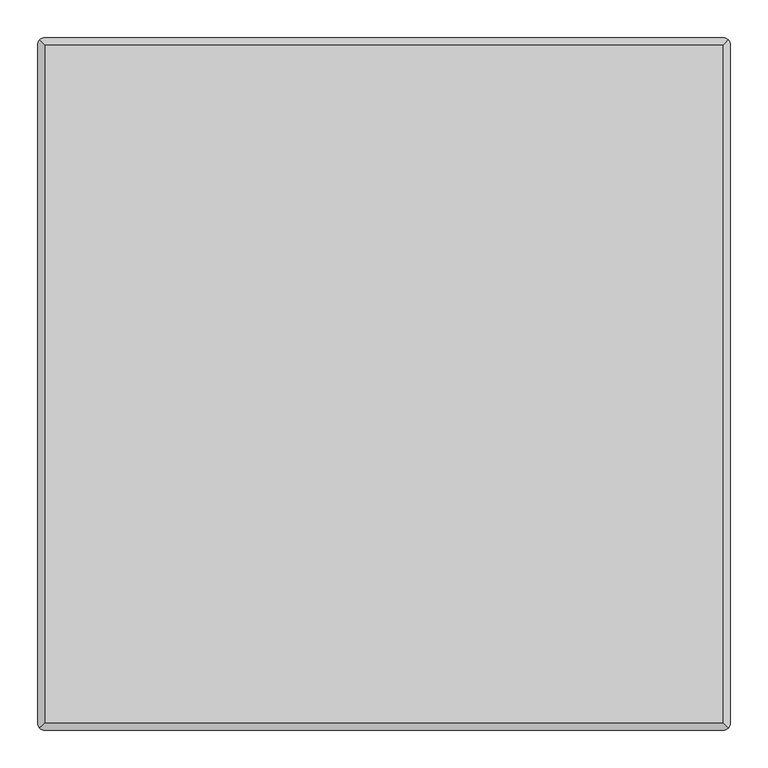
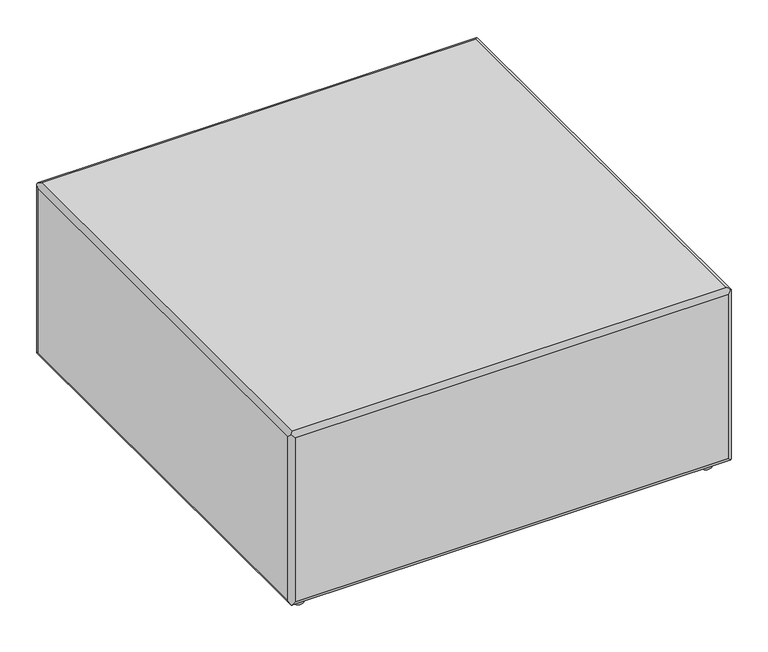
"""IFC4 building model written with IfcOpenShell, lengths in millimetres: furniture geometry, Puff - COLAB - 04 SP : Puff - COLAB - 04 SP."""

from ifc_helpers import new_model, si_unit, point, frame, frame_2d, origin, origin_with_axes, place, context, project, spatial, circle_curve, ellipse_curve, trimmed, segment, composite_curve, outline, extrude, source, transform, mapped, element, save
from ifc_brep_helpers import plane_surface, cylinder_surface, advanced_brep


def furniture_c106df04(model_context):
    return source(origin(), model_context, "Body", "SolidModel", [
        extrude(outline(composite_curve([segment(trimmed(circle_curve(frame_2d((36.0013585, 36.0000851)), 2.5), [point((33.5013585, 36.0000851))], [point((38.5013585, 36.0000851))], False, "CARTESIAN"), True, "CONTINUOUS"), segment(trimmed(circle_curve(frame_2d((36.0013585, 36.0000851)), 2.5), [point((38.5013585, 36.0000851))], [point((33.5013585, 36.0000851))], False, "CARTESIAN"), True, "CONTINUOUS")], self_intersect=False)), frame((0.0, 0.0, 5.0000003), z_axis=(0.0, 0.0, 1.0), x_axis=(1.0, 0.0, 0.0)), (0.0, 0.0, 1.0), 15.0000011),
        extrude(outline(composite_curve([segment(trimmed(circle_curve(frame_2d((883.9986415, 36.0000851)), 2.5), [point((886.4986415, 36.0000851))], [point((881.4986415, 36.0000851))], False, "CARTESIAN"), True, "CONTINUOUS"), segment(trimmed(circle_curve(frame_2d((883.9986415, 36.0000851)), 2.5), [point((881.4986415, 36.0000851))], [point((886.4986415, 36.0000851))], False, "CARTESIAN"), True, "CONTINUOUS")], self_intersect=False)), frame((0.0, 0.0, 5.0000003), z_axis=(0.0, 0.0, 1.0), x_axis=(1.0, 0.0, 0.0)), (0.0, 0.0, 1.0), 15.0000011),
        extrude(outline(composite_curve([segment(trimmed(circle_curve(frame_2d((36.0013585, 883.9999149)), 2.5), [point((33.5013585, 883.9999149))], [point((38.5013585, 883.9999149))], False, "CARTESIAN"), True, "CONTINUOUS"), segment(trimmed(circle_curve(frame_2d((36.0013585, 883.9999149)), 2.5), [point((38.5013585, 883.9999149))], [point((33.5013585, 883.9999149))], False, "CARTESIAN"), True, "CONTINUOUS")], self_intersect=False)), frame((0.0, 0.0, 5.0000003), z_axis=(0.0, 0.0, 1.0), x_axis=(1.0, 0.0, 0.0)), (0.0, 0.0, 1.0), 15.0000011),
        extrude(outline(composite_curve([segment(trimmed(circle_curve(frame_2d((883.9986415, 883.9999149)), 2.5), [point((886.4986415, 883.9999149))], [point((881.4986415, 883.9999149))], False, "CARTESIAN"), True, "CONTINUOUS"), segment(trimmed(circle_curve(frame_2d((883.9986415, 883.9999149)), 2.5), [point((881.4986415, 883.9999149))], [point((886.4986415, 883.9999149))], False, "CARTESIAN"), True, "CONTINUOUS")], self_intersect=False)), frame((0.0, 0.0, 5.0000003), z_axis=(0.0, 0.0, 1.0), x_axis=(1.0, 0.0, 0.0)), (0.0, 0.0, 1.0), 15.0000011),
        extrude(outline(composite_curve([segment(trimmed(circle_curve(frame_2d((36.0013585, 36.0000851)), 11.0000138), [point((25.0013447, 36.0000851))], [point((47.0013723, 36.0000851))], False, "CARTESIAN"), True, "CONTINUOUS"), segment(trimmed(circle_curve(frame_2d((36.0013585, 36.0000851)), 11.0000138), [point((47.0013723, 36.0000851))], [point((25.0013447, 36.0000851))], False, "CARTESIAN"), True, "CONTINUOUS")], self_intersect=False)), origin_with_axes(), (0.0, 0.0, 1.0), 5.0000003),
        extrude(outline(composite_curve([segment(trimmed(circle_curve(frame_2d((883.9986415, 36.0000851)), 11.0000138), [point((894.9986553, 36.0000851))], [point((872.9986277, 36.0000851))], False, "CARTESIAN"), True, "CONTINUOUS"), segment(trimmed(circle_curve(frame_2d((883.9986415, 36.0000851)), 11.0000138), [point((872.9986277, 36.0000851))], [point((894.9986553, 36.0000851))], False, "CARTESIAN"), True, "CONTINUOUS")], self_intersect=False)), origin_with_axes(), (0.0, 0.0, 1.0), 5.0000003),
        extrude(outline(composite_curve([segment(trimmed(circle_curve(frame_2d((36.0013585, 883.9999149)), 11.0000138), [point((25.0013447, 883.9999149))], [point((47.0013723, 883.9999149))], False, "CARTESIAN"), True, "CONTINUOUS"), segment(trimmed(circle_curve(frame_2d((36.0013585, 883.9999149)), 11.0000138), [point((47.0013723, 883.9999149))], [point((25.0013447, 883.9999149))], False, "CARTESIAN"), True, "CONTINUOUS")], self_intersect=False)), origin_with_axes(), (0.0, 0.0, 1.0), 5.0000003),
        extrude(outline(composite_curve([segment(trimmed(circle_curve(frame_2d((883.9986415, 883.9999149)), 11.0000138), [point((894.9986553, 883.9999149))], [point((872.9986277, 883.9999149))], False, "CARTESIAN"), True, "CONTINUOUS"), segment(trimmed(circle_curve(frame_2d((883.9986415, 883.9999149)), 11.0000138), [point((872.9986277, 883.9999149))], [point((894.9986553, 883.9999149))], False, "CARTESIAN"), True, "CONTINUOUS")], self_intersect=False)), origin_with_axes(), (0.0, 0.0, 1.0), 5.0000003),
        advanced_brep(
        [(910.0, 910.0, 400.0), (10.0, 910.0, 400.0), (10.0, 10.0, 400.0), (910.0, 10.0, 400.0), (10.0, 910.0, 20.0000013), (910.0, 910.0, 20.0000013), (910.0, 10.0, 20.0000013), (10.0, 10.0, 20.0000013), (10.0, 0.0, 30.0000013), (10.0, 0.0, 390.0), (2.9289322, 2.9289322, 397.0710678), (0.0, 10.0, 390.0), (0.0, 10.0, 30.0000013), (2.9289322, 2.9289322, 22.9289335), (910.0, 0.0, 30.0000013), (910.0, 0.0, 390.0), (917.0710678, 2.9289322, 22.9289335), (920.0, 10.0, 30.0000013), (920.0, 10.0, 390.0), (917.0710678, 2.9289322, 397.0710678), (920.0, 910.0, 30.0000013), (920.0, 910.0, 390.0), (910.0, 920.0, 30.0000013), (910.0, 920.0, 390.0), (917.0710678, 917.0710678, 397.0710678), (917.0710678, 917.0710678, 22.9289335), (10.0, 920.0, 30.0000013), (10.0, 920.0, 390.0), (2.9289322, 917.0710678, 22.9289335), (0.0, 910.0, 30.0000013), (0.0, 910.0, 390.0), (2.9289322, 917.0710678, 397.0710678)],
        [
            (0, 1),
            (1, 2),
            (2, 3),
            (3, 0),
            (4, 5),
            (5, 6),
            (6, 7),
            (7, 4),
            (8, 9),
            (9, 10, ellipse_curve(frame((10.0, 10.0, 390.0), z_axis=(-0.7071067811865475, 0.0, -0.7071067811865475), x_axis=(-0.7071067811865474, 0.0, 0.7071067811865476)), 14.1421356, 10.0)),
            (10, 11, ellipse_curve(frame((10.0, 10.0, 390.0), z_axis=(0.0, -0.7071067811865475, -0.7071067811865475), x_axis=(0.0, -0.7071067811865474, 0.7071067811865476)), 14.1421356, 10.0)),
            (11, 12),
            (12, 13, ellipse_curve(frame((10.0, 10.0, 30.0000013), z_axis=(0.0, -0.7071067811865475, 0.7071067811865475), x_axis=(0.0, 0.7071067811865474, 0.7071067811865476)), 14.1421356, 10.0)),
            (13, 8, ellipse_curve(frame((10.0, 10.0, 30.0000013), z_axis=(-0.7071067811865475, 0.0, 0.7071067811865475), x_axis=(0.7071067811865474, 0.0, 0.7071067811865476)), 14.1421356, 10.0)),
            (8, 14),
            (14, 15),
            (15, 9),
            (14, 16, ellipse_curve(frame((910.0, 10.0, 30.0000013), z_axis=(0.7071067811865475, 0.0, 0.7071067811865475), x_axis=(-0.7071067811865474, 0.0, 0.7071067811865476)), 14.1421356, 10.0)),
            (16, 17, ellipse_curve(frame((910.0, 10.0, 30.0000013), z_axis=(0.0, -0.7071067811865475, 0.7071067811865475), x_axis=(0.0, 0.7071067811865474, 0.7071067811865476)), 14.1421356, 10.0)),
            (17, 18),
            (18, 19, ellipse_curve(frame((910.0, 10.0, 390.0), z_axis=(0.0, -0.7071067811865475, -0.7071067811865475), x_axis=(0.0, -0.7071067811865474, 0.7071067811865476)), 14.1421356, 10.0)),
            (19, 15, ellipse_curve(frame((910.0, 10.0, 390.0), z_axis=(0.7071067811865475, 0.0, -0.7071067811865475), x_axis=(0.7071067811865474, 0.0, 0.7071067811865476)), 14.1421356, 10.0)),
            (17, 20),
            (20, 21),
            (21, 18),
            (22, 23),
            (23, 24, ellipse_curve(frame((910.0, 910.0, 390.0), z_axis=(0.7071067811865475, 0.0, -0.7071067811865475), x_axis=(0.7071067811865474, 0.0, 0.7071067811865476)), 14.1421356, 10.0)),
            (24, 21, ellipse_curve(frame((910.0, 910.0, 390.0), z_axis=(0.0, 0.7071067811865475, -0.7071067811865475), x_axis=(0.0, 0.7071067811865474, 0.7071067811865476)), 14.1421356, 10.0)),
            (20, 25, ellipse_curve(frame((910.0, 910.0, 30.0000013), z_axis=(0.0, 0.7071067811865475, 0.7071067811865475), x_axis=(0.0, -0.7071067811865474, 0.7071067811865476)), 14.1421356, 10.0)),
            (25, 22, ellipse_curve(frame((910.0, 910.0, 30.0000013), z_axis=(0.7071067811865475, 0.0, 0.7071067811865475), x_axis=(-0.7071067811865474, 0.0, 0.7071067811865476)), 14.1421356, 10.0)),
            (22, 26),
            (26, 27),
            (27, 23),
            (26, 28, ellipse_curve(frame((10.0, 910.0, 30.0000013), z_axis=(-0.7071067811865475, 0.0, 0.7071067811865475), x_axis=(0.7071067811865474, 0.0, 0.7071067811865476)), 14.1421356, 10.0)),
            (28, 29, ellipse_curve(frame((10.0, 910.0, 30.0000013), z_axis=(0.0, 0.7071067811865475, 0.7071067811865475), x_axis=(0.0, -0.7071067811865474, 0.7071067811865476)), 14.1421356, 10.0)),
            (29, 30),
            (30, 31, ellipse_curve(frame((10.0, 910.0, 390.0), z_axis=(0.0, 0.7071067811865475, -0.7071067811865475), x_axis=(0.0, 0.7071067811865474, 0.7071067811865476)), 14.1421356, 10.0)),
            (31, 27, ellipse_curve(frame((10.0, 910.0, 390.0), z_axis=(-0.7071067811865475, 0.0, -0.7071067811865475), x_axis=(-0.7071067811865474, 0.0, 0.7071067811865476)), 14.1421356, 10.0)),
            (11, 30),
            (29, 12),
            (25, 5, ellipse_curve(frame((910.0, 910.0, 30.0000013), z_axis=(-0.7071067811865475, 0.7071067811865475, 0.0), x_axis=(-0.7071067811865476, -0.7071067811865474, 0.0)), 14.1421356, 10.0)),
            (4, 28, ellipse_curve(frame((10.0, 910.0, 30.0000013), z_axis=(0.7071067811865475, 0.7071067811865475, 0.0), x_axis=(-0.7071067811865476, 0.7071067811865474, 0.0)), 14.1421356, 10.0)),
            (13, 7, ellipse_curve(frame((10.0, 10.0, 30.0000013), z_axis=(0.7071067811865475, -0.7071067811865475, 0.0), x_axis=(-0.7071067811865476, -0.7071067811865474, 0.0)), 14.1421356, 10.0)),
            (6, 16, ellipse_curve(frame((910.0, 10.0, 30.0000013), z_axis=(-0.7071067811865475, -0.7071067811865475, 0.0), x_axis=(-0.7071067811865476, 0.7071067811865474, 0.0)), 14.1421356, 10.0)),
            (19, 3, ellipse_curve(frame((910.0, 10.0, 390.0), z_axis=(-0.7071067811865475, -0.7071067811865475, 0.0), x_axis=(-0.7071067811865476, 0.7071067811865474, 0.0)), 14.1421356, 10.0)),
            (2, 10, ellipse_curve(frame((10.0, 10.0, 390.0), z_axis=(0.7071067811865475, -0.7071067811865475, 0.0), x_axis=(-0.7071067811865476, -0.7071067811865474, 0.0)), 14.1421356, 10.0)),
            (31, 1, ellipse_curve(frame((10.0, 910.0, 390.0), z_axis=(0.7071067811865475, 0.7071067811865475, 0.0), x_axis=(-0.7071067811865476, 0.7071067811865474, 0.0)), 14.1421356, 10.0)),
            (0, 24, ellipse_curve(frame((910.0, 910.0, 390.0), z_axis=(-0.7071067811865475, 0.7071067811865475, 0.0), x_axis=(-0.7071067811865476, -0.7071067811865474, 0.0)), 14.1421356, 10.0)),
        ],
        [
            plane_surface(frame((20.0, 10.0, 400.0), z_axis=(0.0, 0.0, 1.0), x_axis=(0.0, 1.0, 0.0))),
            plane_surface(frame((20.0, 10.0, 20.0000013), z_axis=(0.0, 0.0, -1.0), x_axis=(0.0, -1.0, 0.0))),
            cylinder_surface(frame((10.0, 10.0, 20.0000013), z_axis=(0.0, 0.0, 1.0), x_axis=(1.0, 0.0, 0.0)), 10.0),
            plane_surface(frame((10.0, 0.0, 400.0), z_axis=(0.0, -1.0, 0.0), x_axis=(0.0, 0.0, -1.0))),
            cylinder_surface(frame((910.0, 10.0, 20.0000013), z_axis=(0.0, 0.0, 1.0), x_axis=(1.0, 0.0, 0.0)), 10.0),
            plane_surface(frame((920.0, 10.0, 400.0), z_axis=(1.0, 0.0, 0.0), x_axis=(0.0, 0.0, -1.0))),
            cylinder_surface(frame((910.0, 910.0, 20.0000013), z_axis=(0.0, 0.0, 1.0), x_axis=(-1.0, 0.0, 0.0)), 10.0),
            plane_surface(frame((910.0, 920.0, 400.0), z_axis=(0.0, 1.0, 0.0), x_axis=(0.0, 0.0, -1.0))),
            cylinder_surface(frame((10.0, 910.0, 20.0000013), z_axis=(0.0, 0.0, 1.0), x_axis=(1.0, 0.0, 0.0)), 10.0),
            plane_surface(frame((0.0, 910.0, 400.0), z_axis=(-1.0, 0.0, 0.0), x_axis=(0.0, 0.0, -1.0))),
            cylinder_surface(frame((0.0, 910.0, 30.0000013), z_axis=(-1.0, 0.0, 0.0), x_axis=(0.0, 1.0, 0.0)), 10.0),
            cylinder_surface(frame((0.0, 10.0, 30.0000013), z_axis=(-1.0, 0.0, 0.0), x_axis=(0.0, -1.0, 0.0)), 10.0),
            cylinder_surface(frame((0.0, 10.0, 390.0), z_axis=(-1.0, 0.0, 0.0), x_axis=(0.0, -1.0, 0.0)), 10.0),
            cylinder_surface(frame((0.0, 910.0, 390.0), z_axis=(-1.0, 0.0, 0.0), x_axis=(0.0, 1.0, 0.0)), 10.0),
            cylinder_surface(frame((910.0, 0.0, 390.0), z_axis=(0.0, 1.0, 0.0), x_axis=(1.0, 0.0, 0.0)), 10.0),
            cylinder_surface(frame((910.0, 0.0, 30.0000013), z_axis=(0.0, 1.0, 0.0), x_axis=(1.0, 0.0, 0.0)), 10.0),
            cylinder_surface(frame((10.0, 0.0, 30.0000013), z_axis=(0.0, 1.0, 0.0), x_axis=(-1.0, 0.0, 0.0)), 10.0),
            cylinder_surface(frame((10.0, 0.0, 390.0), z_axis=(0.0, 1.0, 0.0), x_axis=(-1.0, 0.0, 0.0)), 10.0),
        ],
        [
            (0, [[1, 2, 3, 4]]),
            (1, [[5, 6, 7, 8]]),
            (2, [[9, 10, 11, 12, 13, 14]]),
            (3, [[-9, 15, 16, 17]]),
            (4, [[-16, 18, 19, 20, 21, 22]]),
            (5, [[-20, 23, 24, 25]]),
            (6, [[26, 27, 28, -24, 29, 30]]),
            (7, [[-26, 31, 32, 33]]),
            (8, [[-32, 34, 35, 36, 37, 38]]),
            (9, [[-12, 39, -36, 40]]),
            (10, [[-31, -30, 41, -5, 42, -34]]),
            (11, [[-15, -14, 43, -7, 44, -18]]),
            (12, [[-17, -22, 45, -3, 46, -10]]),
            (13, [[-33, -38, 47, -1, 48, -27]]),
            (14, [[-4, -45, -21, -25, -28, -48]]),
            (15, [[-6, -41, -29, -23, -19, -44]]),
            (16, [[-8, -43, -13, -40, -35, -42]]),
            (17, [[-2, -47, -37, -39, -11, -46]]),
        ],
    ),
    ])


if __name__ == "__main__":
    model = new_model("IFC4")
    model_context = context("Model", 3, world=origin())
    ifc_project = project(units=[si_unit("LENGTHUNIT", "METRE", prefix="MILLI")], contexts=[model_context])
    site = spatial("IfcSite", under=ifc_project)
    building = spatial("IfcBuilding", under=site)
    placement = place(None, origin())
    furniture_shape = furniture_c106df04(model_context)
    element("IfcFurniture", 1, ObjectType="Puff - COLAB - 04 SP : Puff - COLAB - 04 SP", at=placement, inside=building, context=model_context, shape_type="MappedRepresentation", body=[
        mapped(furniture_shape, transform((0.0, 0.0, 0.0), x_axis=(1.0, 0.0, 0.0), y_axis=(0.0, 1.0, 0.0), z_axis=(0.0, 0.0, 1.0))),
    ])
    save(model, "model.ifc")
